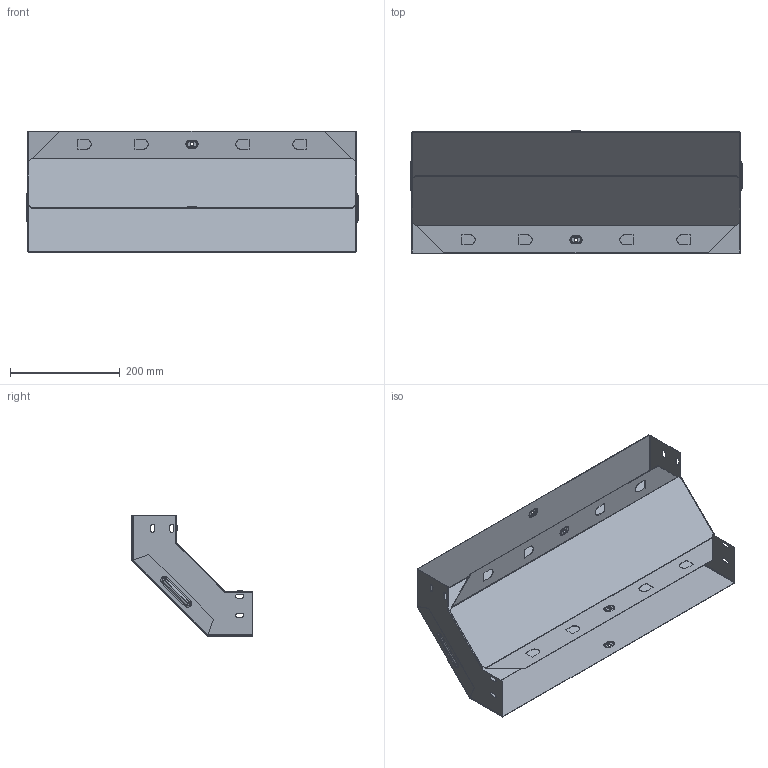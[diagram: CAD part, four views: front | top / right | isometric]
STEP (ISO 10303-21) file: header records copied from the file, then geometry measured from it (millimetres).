
FILE_DESCRIPTION (( 'STEP AP214' ), '1' );
FILE_NAME ('vo9080600_捘.STEP', '2019-06-10T09:07:39', ( '砐錪賧瘔蠈錪 Windows' ), ( '' ), 'SwSTEP 2.0', 'SolidWorks 2018', '' );
FILE_SCHEMA (( 'AUTOMOTIVE_DESIGN' ));
Length unit declared in the file: millimetre
Products named in the file (1): vo9080600_捘
Bounding box: 605.6 x 222.3 x 222.3 mm (x, y, z)
Volume: 318474.7 mm3; surface area: 800612.9 mm2
Topology: 2 solids, 2 shells, 312 faces, 756 edges, 464 vertices
Faces by surface type: plane 124, cylinder 116, torus 64, bspline 8
Entity records: 9355 total; most frequent: CARTESIAN_POINT 1781, DIRECTION 1646, ORIENTED_EDGE 1512, EDGE_CURVE 756, AXIS2_PLACEMENT_3D 617, VERTEX_POINT 464, VECTOR 412, LINE 412
